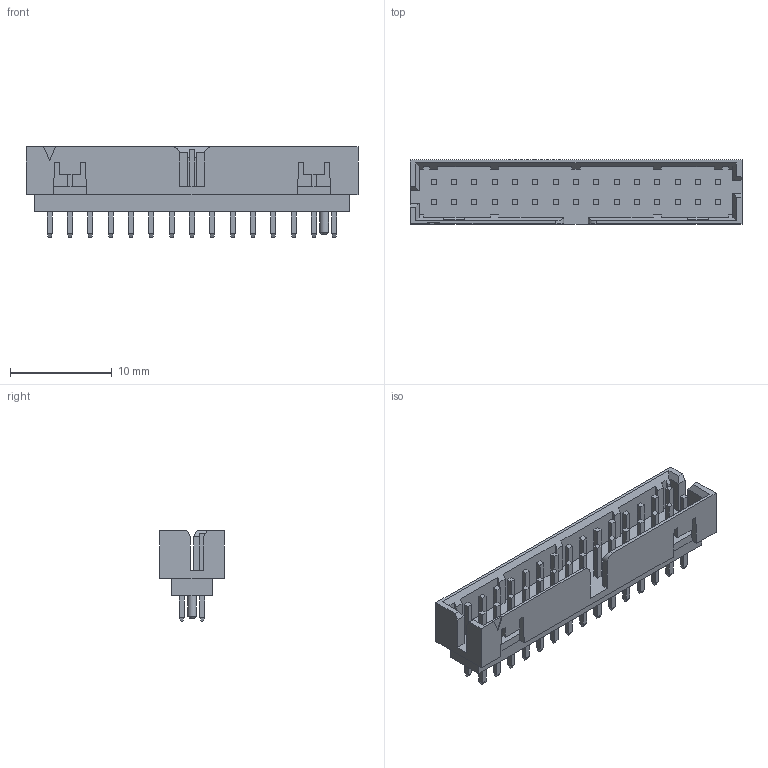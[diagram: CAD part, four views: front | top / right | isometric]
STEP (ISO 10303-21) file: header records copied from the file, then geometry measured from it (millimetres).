
FILE_DESCRIPTION(/* description */ (''),/* implementation_level */ '2;1');
FILE_NAME(/* name */ '878313028wbm000_01_214.stp',/* time_stamp */ '2022-04-11T12:59:28+05:00',/* author */ (''),/* organization */ (''),/* preprocessor_version */ 'ST-DEVELOPER v16.7',/* originating_system */ 'SIEMENS PLM Software NX 1919',/* authorisation */ '');
FILE_SCHEMA (('AUTOMOTIVE_DESIGN { 1 0 10303 214 3 1 1 1 }'));
Length unit declared in the file: millimetre
Products named in the file (1): 878313028wbm000_01
Bounding box: 32.65 x 6.3 x 8.9 mm (x, y, z)
Volume: 592.5 mm3; surface area: 1497.9 mm2
Topology: 1 solids, 1 shells, 530 faces, 1277 edges, 807 vertices
Faces by surface type: plane 526, cylinder 3, cone 1
Full cylindrical faces by diameter (mm): 0.85 x1
Entity records: 14948 total; most frequent: CARTESIAN_POINT 2613, ORIENTED_EDGE 2550, DIRECTION 2346, EDGE_CURVE 1275, LINE 1266, VECTOR 1266, VERTEX_POINT 807, EDGE_LOOP 594
